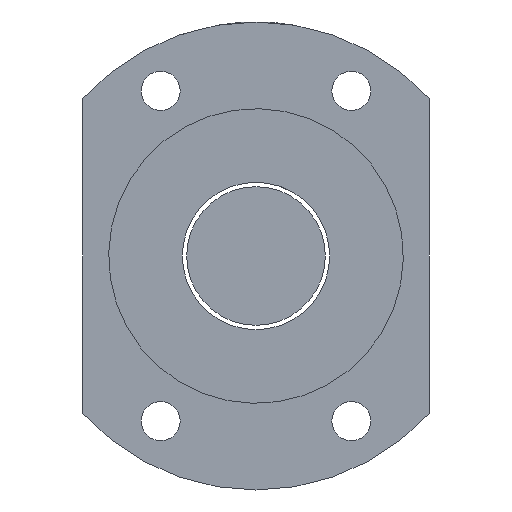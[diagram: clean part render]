
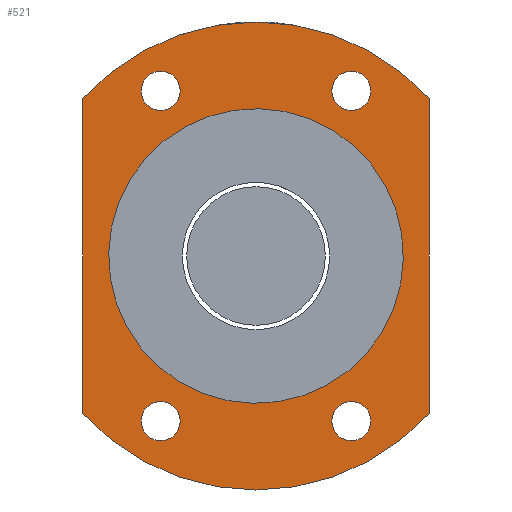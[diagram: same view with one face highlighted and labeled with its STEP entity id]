
A CAD part, left-side view. The second image highlights one B-rep face of the part: STEP entity #521.
In plain terms, the highlighted planar face has unit normal (-1, 0, 0).
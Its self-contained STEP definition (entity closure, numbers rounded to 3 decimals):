
#312=CARTESIAN_POINT('Line Origine',(-10.,-20.,0.)) ;
#316=CARTESIAN_POINT('Vertex',(-10.,-20.,18.138)) ;
#318=CARTESIAN_POINT('Vertex',(-10.,-20.,-18.138)) ;
#347=CARTESIAN_POINT('Vertex',(-10.,20.,-18.138)) ;
#350=CARTESIAN_POINT('Axis2P3D Location',(-10.,0.,0.)) ;
#367=CARTESIAN_POINT('Line Origine',(-10.,20.,0.)) ;
#371=CARTESIAN_POINT('Vertex',(-10.,20.,18.138)) ;
#391=CARTESIAN_POINT('Axis2P3D Location',(-10.,11.,-19.053)) ;
#395=CARTESIAN_POINT('Vertex',(-10.,13.25,-19.053)) ;
#397=CARTESIAN_POINT('Vertex',(-10.,8.75,-19.053)) ;
#417=CARTESIAN_POINT('Axis2P3D Location',(-10.,11.,-19.053)) ;
#429=CARTESIAN_POINT('Axis2P3D Location',(-10.,0.,118.885)) ;
#434=CARTESIAN_POINT('Axis2P3D Location',(-10.,0.,0.)) ;
#445=CARTESIAN_POINT('Axis2P3D Location',(-10.,-11.,-19.053)) ;
#449=CARTESIAN_POINT('Vertex',(-10.,-8.75,-19.053)) ;
#451=CARTESIAN_POINT('Vertex',(-10.,-13.25,-19.053)) ;
#454=CARTESIAN_POINT('Axis2P3D Location',(-10.,-11.,-19.053)) ;
#467=CARTESIAN_POINT('Axis2P3D Location',(-10.,-11.,19.053)) ;
#471=CARTESIAN_POINT('Vertex',(-10.,-12.125,17.104)) ;
#473=CARTESIAN_POINT('Vertex',(-10.,-9.875,21.001)) ;
#476=CARTESIAN_POINT('Axis2P3D Location',(-10.,-11.,19.053)) ;
#485=CARTESIAN_POINT('Axis2P3D Location',(-10.,11.,19.053)) ;
#489=CARTESIAN_POINT('Vertex',(-10.,8.75,19.053)) ;
#491=CARTESIAN_POINT('Vertex',(-10.,13.25,19.053)) ;
#494=CARTESIAN_POINT('Axis2P3D Location',(-10.,11.,19.053)) ;
#503=CARTESIAN_POINT('Axis2P3D Location',(-10.,0.,0.)) ;
#507=CARTESIAN_POINT('Vertex',(-10.,8.15,14.919)) ;
#509=CARTESIAN_POINT('Vertex',(-10.,-8.15,-14.919)) ;
#512=CARTESIAN_POINT('Axis2P3D Location',(-10.,0.,0.)) ;
#313=DIRECTION('Vector Direction',(0.,0.,-1.)) ;
#351=DIRECTION('Axis2P3D Direction',(1.,0.,0.)) ;
#368=DIRECTION('Vector Direction',(0.,0.,1.)) ;
#392=DIRECTION('Axis2P3D Direction',(-1.,0.,0.)) ;
#418=DIRECTION('Axis2P3D Direction',(-1.,0.,0.)) ;
#430=DIRECTION('Axis2P3D Direction',(-1.,0.,0.)) ;
#431=DIRECTION('Axis2P3D XDirection',(0.,1.,0.)) ;
#435=DIRECTION('Axis2P3D Direction',(-1.,0.,0.)) ;
#446=DIRECTION('Axis2P3D Direction',(-1.,0.,0.)) ;
#455=DIRECTION('Axis2P3D Direction',(-1.,0.,0.)) ;
#468=DIRECTION('Axis2P3D Direction',(-1.,0.,0.)) ;
#477=DIRECTION('Axis2P3D Direction',(-1.,0.,0.)) ;
#486=DIRECTION('Axis2P3D Direction',(-1.,0.,0.)) ;
#495=DIRECTION('Axis2P3D Direction',(-1.,0.,0.)) ;
#504=DIRECTION('Axis2P3D Direction',(-1.,0.,0.)) ;
#513=DIRECTION('Axis2P3D Direction',(-1.,0.,0.)) ;
#352=AXIS2_PLACEMENT_3D('Circle Axis2P3D',#350,#351,$) ;
#393=AXIS2_PLACEMENT_3D('Circle Axis2P3D',#391,#392,$) ;
#419=AXIS2_PLACEMENT_3D('Circle Axis2P3D',#417,#418,$) ;
#432=AXIS2_PLACEMENT_3D('Plane Axis2P3D',#429,#430,#431) ;
#436=AXIS2_PLACEMENT_3D('Circle Axis2P3D',#434,#435,$) ;
#447=AXIS2_PLACEMENT_3D('Circle Axis2P3D',#445,#446,$) ;
#456=AXIS2_PLACEMENT_3D('Circle Axis2P3D',#454,#455,$) ;
#469=AXIS2_PLACEMENT_3D('Circle Axis2P3D',#467,#468,$) ;
#478=AXIS2_PLACEMENT_3D('Circle Axis2P3D',#476,#477,$) ;
#487=AXIS2_PLACEMENT_3D('Circle Axis2P3D',#485,#486,$) ;
#496=AXIS2_PLACEMENT_3D('Circle Axis2P3D',#494,#495,$) ;
#505=AXIS2_PLACEMENT_3D('Circle Axis2P3D',#503,#504,$) ;
#514=AXIS2_PLACEMENT_3D('Circle Axis2P3D',#512,#513,$) ;
#440=ORIENTED_EDGE('',*,*,#438,.T.) ;
#441=ORIENTED_EDGE('',*,*,#373,.F.) ;
#442=ORIENTED_EDGE('',*,*,#354,.T.) ;
#443=ORIENTED_EDGE('',*,*,#320,.F.) ;
#460=ORIENTED_EDGE('',*,*,#453,.F.) ;
#461=ORIENTED_EDGE('',*,*,#458,.F.) ;
#464=ORIENTED_EDGE('',*,*,#399,.F.) ;
#465=ORIENTED_EDGE('',*,*,#421,.F.) ;
#482=ORIENTED_EDGE('',*,*,#475,.F.) ;
#483=ORIENTED_EDGE('',*,*,#480,.F.) ;
#500=ORIENTED_EDGE('',*,*,#493,.F.) ;
#501=ORIENTED_EDGE('',*,*,#498,.F.) ;
#518=ORIENTED_EDGE('',*,*,#511,.F.) ;
#519=ORIENTED_EDGE('',*,*,#516,.F.) ;
#462=FACE_BOUND('',#459,.T.) ;
#466=FACE_BOUND('',#463,.T.) ;
#484=FACE_BOUND('',#481,.T.) ;
#502=FACE_BOUND('',#499,.T.) ;
#520=FACE_BOUND('',#517,.T.) ;
#314=VECTOR('Line Direction',#313,1.) ;
#369=VECTOR('Line Direction',#368,1.) ;
#521=ADVANCED_FACE('NUT',(#444,#462,#466,#484,#502,#520),#433,.T.) ;
#353=CIRCLE('generated circle',#352,27.) ;
#394=CIRCLE('generated circle',#393,2.25) ;
#420=CIRCLE('generated circle',#419,2.25) ;
#437=CIRCLE('generated circle',#436,27.) ;
#448=CIRCLE('generated circle',#447,2.25) ;
#457=CIRCLE('generated circle',#456,2.25) ;
#470=CIRCLE('generated circle',#469,2.25) ;
#479=CIRCLE('generated circle',#478,2.25) ;
#488=CIRCLE('generated circle',#487,2.25) ;
#497=CIRCLE('generated circle',#496,2.25) ;
#506=CIRCLE('generated circle',#505,17.) ;
#515=CIRCLE('generated circle',#514,17.) ;
#320=EDGE_CURVE('',#317,#319,#315,.T.) ;
#354=EDGE_CURVE('',#348,#319,#353,.F.) ;
#373=EDGE_CURVE('',#348,#372,#370,.T.) ;
#399=EDGE_CURVE('',#396,#398,#394,.T.) ;
#421=EDGE_CURVE('',#398,#396,#420,.T.) ;
#438=EDGE_CURVE('',#317,#372,#437,.T.) ;
#453=EDGE_CURVE('',#450,#452,#448,.T.) ;
#458=EDGE_CURVE('',#452,#450,#457,.T.) ;
#475=EDGE_CURVE('',#472,#474,#470,.T.) ;
#480=EDGE_CURVE('',#474,#472,#479,.T.) ;
#493=EDGE_CURVE('',#490,#492,#488,.T.) ;
#498=EDGE_CURVE('',#492,#490,#497,.T.) ;
#511=EDGE_CURVE('',#508,#510,#506,.T.) ;
#516=EDGE_CURVE('',#510,#508,#515,.T.) ;
#439=EDGE_LOOP('',(#440,#441,#442,#443)) ;
#459=EDGE_LOOP('',(#460,#461)) ;
#463=EDGE_LOOP('',(#464,#465)) ;
#481=EDGE_LOOP('',(#482,#483)) ;
#499=EDGE_LOOP('',(#500,#501)) ;
#517=EDGE_LOOP('',(#518,#519)) ;
#444=FACE_OUTER_BOUND('',#439,.T.) ;
#315=LINE('Line',#312,#314) ;
#370=LINE('Line',#367,#369) ;
#433=PLANE('',#432) ;
#317=VERTEX_POINT('',#316) ;
#319=VERTEX_POINT('',#318) ;
#348=VERTEX_POINT('',#347) ;
#372=VERTEX_POINT('',#371) ;
#396=VERTEX_POINT('',#395) ;
#398=VERTEX_POINT('',#397) ;
#450=VERTEX_POINT('',#449) ;
#452=VERTEX_POINT('',#451) ;
#472=VERTEX_POINT('',#471) ;
#474=VERTEX_POINT('',#473) ;
#490=VERTEX_POINT('',#489) ;
#492=VERTEX_POINT('',#491) ;
#508=VERTEX_POINT('',#507) ;
#510=VERTEX_POINT('',#509) ;
